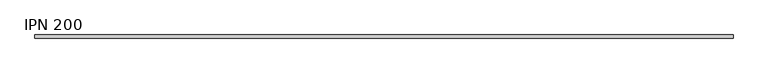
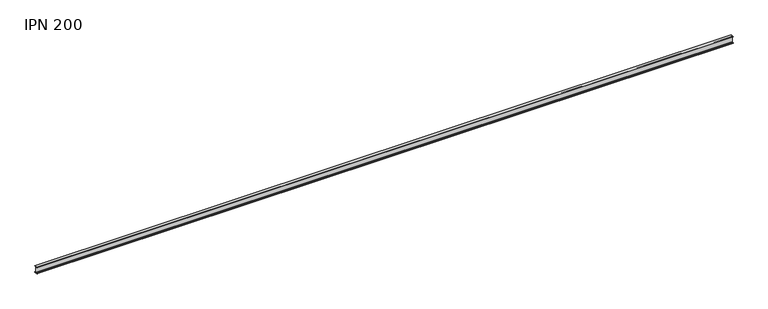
"""IFC4 building model written with IfcOpenShell, lengths in millimetres: beam geometry, IPN - Secciones en I con alas cónicas : IPN 200."""

import ifcopenshell
import ifcopenshell.guid

model = None  # the IFC model being written
_history = None  # IfcOwnerHistory: only IFC2X3 demands one
_inside = {}  # id of a spatial element -> (the spatial element, [elements in it])
_under = {}  # id of a project, library or spatial element -> (it, [spatial elements below it])
_declared = {}  # id of a project -> (the project, [libraries it declares])
_typed = {}  # id of a type object -> (the type object, [elements of that type])
_made_of = {}  # id of a material, layer set ... -> (it, [elements and type objects made of it])


def new_model(schema):
    """Start an empty IFC model of exactly this schema.

    Asked for "IFC4X3", IfcOpenShell would pick the latest addendum, in which some entities
    have other attributes; the version numbers below select the first issue.
    IFC2X3 requires an IfcOwnerHistory on every rooted entity: one is made here for all.
    """
    global model, _history
    if schema == "IFC4X3":
        model = ifcopenshell.file(schema_version=(4, 3, 0, 0))
    else:
        model = ifcopenshell.file(schema=schema)
    _inside.clear()
    _under.clear()
    _declared.clear()
    _typed.clear()
    _made_of.clear()
    _history = None
    if model.schema == "IFC2X3":
        org = make("IfcOrganization", Name="unknown")
        user = make(
            "IfcPersonAndOrganization",
            ThePerson=make("IfcPerson", FamilyName="unknown"),
            TheOrganization=org,
        )
        app = make(
            "IfcApplication",
            ApplicationDeveloper=org,
            Version="unknown",
            ApplicationFullName="unknown",
            ApplicationIdentifier="unknown",
        )
        _history = make(
            "IfcOwnerHistory",
            OwningUser=user,
            OwningApplication=app,
            ChangeAction="ADDED",
            CreationDate=0,
        )
    return model


def make(cls, **values):
    """One entity of the class cls with the attributes given. An attribute that is None is left unset."""
    return model.create_entity(
        cls, **{name: value for name, value in values.items() if value is not None}
    )


def rooted(cls, **values):
    """An entity with a GlobalId (a new one), such as an element, a storey or a relation."""
    return make(cls, GlobalId=ifcopenshell.guid.new(), OwnerHistory=_history, **values)


def si_unit(unit_type, name, prefix=None):
    """IfcSIUnit, for example si_unit("LENGTHUNIT", "METRE", prefix="MILLI")."""
    return make("IfcSIUnit", UnitType=unit_type, Prefix=prefix, Name=name)


def assignment(units):
    """IfcUnitAssignment: the units of a project."""
    return None if units is None else make("IfcUnitAssignment", Units=units)


def point(xyz):
    """IfcCartesianPoint."""
    return None if xyz is None else make("IfcCartesianPoint", Coordinates=xyz)


def direction(xyz):
    """IfcDirection."""
    return None if xyz is None else make("IfcDirection", DirectionRatios=xyz)


def frame(location, z_axis=None, x_axis=None):
    """IfcAxis2Placement3D, a coordinate frame: its origin and axes. An axis left out is left unset."""
    return make(
        "IfcAxis2Placement3D",
        Location=point(location),
        Axis=direction(z_axis),
        RefDirection=direction(x_axis),
    )


def frame_2d(location, x_axis=None):
    """IfcAxis2Placement2D, a coordinate frame in the plane: its origin and x axis."""
    return make(
        "IfcAxis2Placement2D", Location=point(location), RefDirection=direction(x_axis)
    )


def origin():
    """The frame at (0, 0, 0) with its axes left unset."""
    return frame((0.0, 0.0, 0.0))


def place(relative_to, where):
    """IfcLocalPlacement: puts the frame where relative to a parent placement (None: the world)."""
    return make(
        "IfcLocalPlacement", PlacementRelTo=relative_to, RelativePlacement=where
    )


def context(
    kind, dimensions, precision=None, world=None, true_north=None, identifier=None
):
    """IfcGeometricRepresentationContext, for example the 3D "Model" context."""
    return make(
        "IfcGeometricRepresentationContext",
        ContextIdentifier=identifier,
        ContextType=kind,
        CoordinateSpaceDimension=dimensions,
        Precision=precision,
        WorldCoordinateSystem=world,
        TrueNorth=true_north,
    )


def project(units=None, contexts=None):
    """IfcProject with its units and contexts."""
    return rooted(
        "IfcProject",
        Name="project",
        RepresentationContexts=contexts,
        UnitsInContext=assignment(units),
    )


def spatial(cls, under=None, at=None, **own):
    """A site, building, storey or space (cls), placed at a placement, below another one or the project."""
    s = rooted(cls, ObjectPlacement=at, **own)
    if under is not None:
        _under.setdefault(under.id(), (under, []))[1].append(s)
    return s


def polyline(points):
    """IfcPolyline through the points."""
    return make("IfcPolyline", Points=[point(p) for p in points])


def circle_curve(where, radius):
    """IfcCircle in the frame where."""
    return make("IfcCircle", Position=where, Radius=radius)


def trimmed(basis, trim1, trim2, sense, master):
    """IfcTrimmedCurve: the piece of a basis curve between two trims."""
    return make(
        "IfcTrimmedCurve",
        BasisCurve=basis,
        Trim1=trim1,
        Trim2=trim2,
        SenseAgreement=sense,
        MasterRepresentation=master,
    )


def segment(curve, same_sense, transition):
    """IfcCompositeCurveSegment."""
    return make(
        "IfcCompositeCurveSegment",
        Transition=transition,
        SameSense=same_sense,
        ParentCurve=curve,
    )


def composite_curve(segments, self_intersect=None):
    """IfcCompositeCurve: segments joined end to end."""
    return make("IfcCompositeCurve", Segments=segments, SelfIntersect=self_intersect)


def outline(outer, holes=None, kind="AREA"):
    """IfcArbitraryClosedProfileDef: a profile drawn as a closed curve; with holes, ...WithVoids."""
    if holes is None:
        return make("IfcArbitraryClosedProfileDef", ProfileType=kind, OuterCurve=outer)
    return make(
        "IfcArbitraryProfileDefWithVoids",
        ProfileType=kind,
        OuterCurve=outer,
        InnerCurves=holes,
    )


def extrude(swept, where, along, depth):
    """IfcExtrudedAreaSolid: the profile swept, set in the frame where, extruded along a direction by depth."""
    return make(
        "IfcExtrudedAreaSolid",
        SweptArea=swept,
        Position=where,
        ExtrudedDirection=direction(along),
        Depth=depth,
    )


def shape(context_of_items, identifier, shape_type, items):
    """IfcShapeRepresentation: the items that make up one representation, for example the "Body"."""
    return make(
        "IfcShapeRepresentation",
        ContextOfItems=context_of_items,
        RepresentationIdentifier=identifier,
        RepresentationType=shape_type,
        Items=items,
    )


def source(mapping_origin, context_of_items, identifier, shape_type, items):
    """IfcRepresentationMap: a shape defined once, which mapped items show again and again."""
    return make(
        "IfcRepresentationMap",
        MappingOrigin=mapping_origin,
        MappedRepresentation=shape(context_of_items, identifier, shape_type, items),
    )


def transform(
    local_origin,
    x_axis=None,
    y_axis=None,
    z_axis=None,
    scale=None,
    scale2=None,
    scale3=None,
    uniform=True,
):
    """IfcCartesianTransformationOperator3D, or its non-uniform kind. x_axis, y_axis, z_axis: its Axis1, 2, 3."""
    if uniform:
        return make(
            "IfcCartesianTransformationOperator3D",
            Axis1=direction(x_axis),
            Axis2=direction(y_axis),
            LocalOrigin=point(local_origin),
            Scale=scale,
            Axis3=direction(z_axis),
        )
    return make(
        "IfcCartesianTransformationOperator3DnonUniform",
        Axis1=direction(x_axis),
        Axis2=direction(y_axis),
        LocalOrigin=point(local_origin),
        Scale=scale,
        Axis3=direction(z_axis),
        Scale2=scale2,
        Scale3=scale3,
    )


def mapped(mapping_source, mapping_target):
    """IfcMappedItem: shows the shape of a source again, moved by a transform."""
    return make(
        "IfcMappedItem", MappingSource=mapping_source, MappingTarget=mapping_target
    )


def made_of(thing, what):
    """Note that an element or type object is made of a material, layer set ...; save() writes the relation."""
    if what is not None:
        _made_of.setdefault(what.id(), (what, []))[1].append(thing)
    return thing


def element(
    cls,
    number,
    at=None,
    inside=None,
    cuts=None,
    type_object=None,
    material=None,
    context=None,
    identifier="Body",
    shape_type=None,
    held_by="IfcProductDefinitionShape",
    body=None,
    shapes=None,
    **own,
):
    """One element of the class cls, such as IfcWall. Its Tag is "e" and its number.

    at: its placement. inside: the storey or other place that contains it. cuts: it is an
    opening in that element (IfcRelVoidsElement). A single representation is given by context,
    identifier, shape_type and body (its items); several are given by shapes. held_by: the class
    of the entity that holds the representations. save() writes the other relations.
    """
    e = rooted(cls, Tag="e%d" % number, ObjectPlacement=at, **own)
    if body is not None:
        shapes = [shape(context, identifier, shape_type, body)]
    if shapes is not None:
        e.Representation = make(held_by, Representations=shapes)
    if inside is not None:
        _inside.setdefault(inside.id(), (inside, []))[1].append(e)
    if cuts is not None:
        rooted(
            "IfcRelVoidsElement", RelatingBuildingElement=cuts, RelatedOpeningElement=e
        )
    if type_object is not None:
        _typed.setdefault(type_object.id(), (type_object, []))[1].append(e)
    return made_of(e, material)


def aggregate(whole, parts):
    """IfcRelAggregates: a whole, such as a stair, and the parts it consists of."""
    return rooted("IfcRelAggregates", RelatingObject=whole, RelatedObjects=parts)


def save(model, path):
    """Write the relations noted so far, then the file.

    IfcRelAggregates (storeys below a building ...), IfcRelContainedInSpatialStructure (elements
    in a storey), IfcRelDefinesByType, IfcRelAssociatesMaterial and IfcRelDeclares: one each for
    every whole, place, type object, material and project.
    """
    for whole, parts in _under.values():
        aggregate(whole, parts)
    for where, things in _inside.values():
        rooted(
            "IfcRelContainedInSpatialStructure",
            RelatedElements=things,
            RelatingStructure=where,
        )
    for kind, things in _typed.values():
        rooted("IfcRelDefinesByType", RelatedObjects=things, RelatingType=kind)
    for what, things in _made_of.values():
        rooted("IfcRelAssociatesMaterial", RelatedObjects=things, RelatingMaterial=what)
    for by, libraries in _declared.values():
        rooted("IfcRelDeclares", RelatingContext=by, RelatedDefinitions=libraries)
    model.write(path)


def ipn_200_cd8d92dd(model_context):
    return source(origin(), model_context, "Body", "SweptSolid", [
        extrude(outline(composite_curve([segment(polyline([(45.0, 100.0), (45.0, 95.763886)]), True, "CONTINUOUS"), segment(trimmed(circle_curve(frame_2d((40.5, 95.763886)), 4.5), [point((45.0, 95.763886))], [point((41.1239153, 91.3073481))], False, "CARTESIAN"), True, "CONTINUOUS"), segment(polyline([(41.1239153, 91.3073481), (10.2101412, 86.9794198)]), True, "CONTINUOUS"), segment(trimmed(circle_curve(frame_2d((11.25, 79.5518567)), 7.5), [point((10.2101412, 86.9794198))], [point((3.75, 79.5518567))], True, "CARTESIAN"), True, "CONTINUOUS"), segment(polyline([(3.75, 79.5518567), (3.75, -79.5518567)]), True, "CONTINUOUS"), segment(trimmed(circle_curve(frame_2d((11.25, -79.5518567)), 7.5), [point((3.75, -79.5518567))], [point((10.2101412, -86.9794198))], True, "CARTESIAN"), True, "CONTINUOUS"), segment(polyline([(10.2101412, -86.9794198), (41.1239153, -91.3073481)]), True, "CONTINUOUS"), segment(trimmed(circle_curve(frame_2d((40.5, -95.763886)), 4.5), [point((41.1239153, -91.3073481))], [point((45.0, -95.763886))], False, "CARTESIAN"), True, "CONTINUOUS"), segment(polyline([(45.0, -95.763886), (45.0, -100.0), (-45.0, -100.0), (-45.0, -95.763886)]), True, "CONTINUOUS"), segment(trimmed(circle_curve(frame_2d((-40.5, -95.763886)), 4.5), [point((-45.0, -95.763886))], [point((-41.1239153, -91.3073481))], False, "CARTESIAN"), True, "CONTINUOUS"), segment(polyline([(-41.1239153, -91.3073481), (-10.2101412, -86.9794198)]), True, "CONTINUOUS"), segment(trimmed(circle_curve(frame_2d((-11.25, -79.5518567)), 7.5), [point((-10.2101412, -86.9794198))], [point((-3.75, -79.5518567))], True, "CARTESIAN"), True, "CONTINUOUS"), segment(polyline([(-3.75, -79.5518567), (-3.75, 79.5518567)]), True, "CONTINUOUS"), segment(trimmed(circle_curve(frame_2d((-11.25, 79.5518567)), 7.5), [point((-3.75, 79.5518567))], [point((-10.2101412, 86.9794198))], True, "CARTESIAN"), True, "CONTINUOUS"), segment(polyline([(-10.2101412, 86.9794198), (-41.1239153, 91.3073481)]), True, "CONTINUOUS"), segment(trimmed(circle_curve(frame_2d((-40.5, 95.763886)), 4.5), [point((-41.1239153, 91.3073481))], [point((-45.0, 95.763886))], False, "CARTESIAN"), True, "CONTINUOUS"), segment(polyline([(-45.0, 95.763886), (-45.0, 100.0), (45.0, 100.0)]), True, "CONTINUOUS")], self_intersect=False)), frame((-10074.5, 0.0, 0.0), z_axis=(1.0, 0.0, 0.0), x_axis=(0.0, 1.0, 0.0)), (0.0, 0.0, 1.0), 20145.0),
    ])


if __name__ == "__main__":
    model = new_model("IFC4")
    model_context = context("Model", 3, world=origin())
    ifc_project = project(units=[si_unit("LENGTHUNIT", "METRE", prefix="MILLI")], contexts=[model_context])
    site = spatial("IfcSite", under=ifc_project)
    building = spatial("IfcBuilding", under=site)
    placement = place(None, origin())
    ipn_200_shape = ipn_200_cd8d92dd(model_context)
    element("IfcBeam", 1, ObjectType="IPN - Secciones en I con alas cónicas : IPN 200", at=placement, inside=building, context=model_context, shape_type="MappedRepresentation", body=[
        mapped(ipn_200_shape, transform((0.0, 0.0, 0.0), x_axis=(1.0, 0.0, 0.0), y_axis=(0.0, 1.0, 0.0), z_axis=(0.0, 0.0, 1.0))),
    ])
    save(model, "model.ifc")
